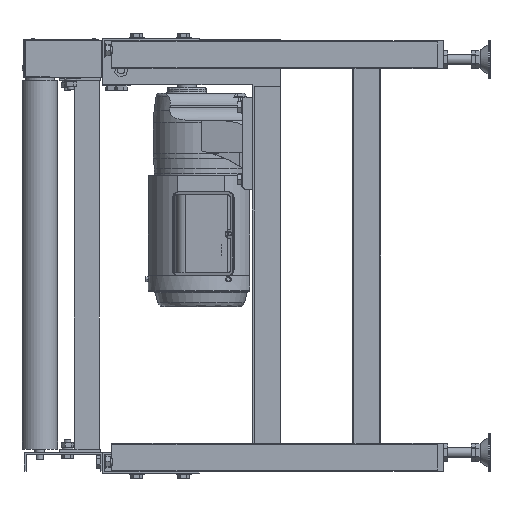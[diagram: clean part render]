
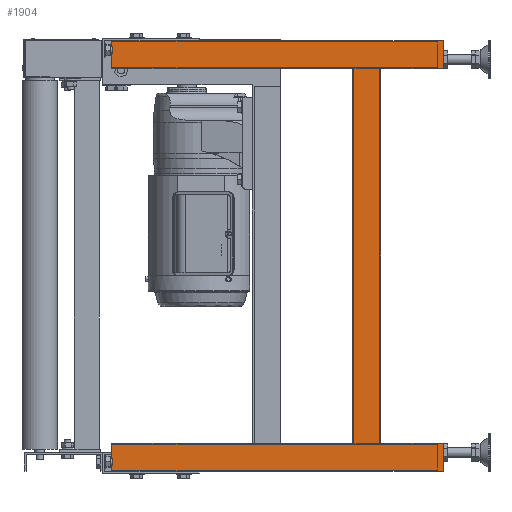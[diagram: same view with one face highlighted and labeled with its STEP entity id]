
A CAD part, left-side view. The second image highlights one B-rep face of the part: STEP entity #1904.
In plain terms, the highlighted planar face has unit normal (-1, 0, 0).
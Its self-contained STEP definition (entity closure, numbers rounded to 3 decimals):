
#1904=ADVANCED_FACE('',(#16114),#16113,.T.);
#16113=PLANE('',#27479);
#16114=FACE_OUTER_BOUND('',#27480,.T.);
#27476=CARTESIAN_POINT('',(62.5,-685.,-340.7));
#27477=DIRECTION('',(-1.,0.,0.));
#27478=DIRECTION('',(0.,0.,1.));
#27479=AXIS2_PLACEMENT_3D('',#27476,#27477,#27478);
#27480=EDGE_LOOP('',(#37053,#37054,#37055,#37056,#37057,#37058,#37059,#37060,#37061,#37062,#37063,#37064,#37065,#37066,#37067,#37068,#37069,#37070));
#37053=ORIENTED_EDGE('',*,*,#42726,.T.);
#37054=ORIENTED_EDGE('',*,*,#42478,.T.);
#37055=ORIENTED_EDGE('',*,*,#42406,.T.);
#37056=ORIENTED_EDGE('',*,*,#42477,.T.);
#37057=ORIENTED_EDGE('',*,*,#42727,.F.);
#37058=ORIENTED_EDGE('',*,*,#42728,.F.);
#37059=ORIENTED_EDGE('',*,*,#42306,.F.);
#37060=ORIENTED_EDGE('',*,*,#42492,.T.);
#37061=ORIENTED_EDGE('',*,*,#42545,.T.);
#37062=ORIENTED_EDGE('',*,*,#42587,.F.);
#37063=ORIENTED_EDGE('',*,*,#42647,.F.);
#37064=ORIENTED_EDGE('',*,*,#42584,.F.);
#37065=ORIENTED_EDGE('',*,*,#42538,.F.);
#37066=ORIENTED_EDGE('',*,*,#42540,.F.);
#37067=ORIENTED_EDGE('',*,*,#42481,.T.);
#37068=ORIENTED_EDGE('',*,*,#42309,.T.);
#37069=ORIENTED_EDGE('',*,*,#42294,.F.);
#37070=ORIENTED_EDGE('',*,*,#42729,.T.);
#42294=EDGE_CURVE('',#64422,#64429,#64430,.T.);
#42306=EDGE_CURVE('',#64505,#64512,#64513,.T.);
#42309=EDGE_CURVE('',#64531,#64429,#64532,.T.);
#42406=EDGE_CURVE('',#65175,#65167,#65176,.T.);
#42477=EDGE_CURVE('',#65167,#65635,#65642,.T.);
#42478=EDGE_CURVE('',#65576,#65175,#65648,.T.);
#42481=EDGE_CURVE('',#65666,#64531,#65667,.T.);
#42492=EDGE_CURVE('',#64505,#65733,#65740,.T.);
#42538=EDGE_CURVE('',#66048,#66034,#66055,.T.);
#42540=EDGE_CURVE('',#65666,#66048,#66067,.T.);
#42545=EDGE_CURVE('',#65733,#66093,#66100,.T.);
#42584=EDGE_CURVE('',#66034,#66362,#66363,.T.);
#42587=EDGE_CURVE('',#66376,#66093,#66383,.T.);
#42647=EDGE_CURVE('',#66362,#66376,#66774,.T.);
#42726=EDGE_CURVE('',#67290,#65576,#67291,.T.);
#42727=EDGE_CURVE('',#67297,#65635,#67298,.T.);
#42728=EDGE_CURVE('',#64512,#67297,#67304,.T.);
#42729=EDGE_CURVE('',#64422,#67290,#67310,.T.);
#64422=VERTEX_POINT('',#86901);
#64429=VERTEX_POINT('',#86905);
#64430=LINE('',#86906,#86907);
#64505=VERTEX_POINT('',#86948);
#64512=VERTEX_POINT('',#86952);
#64513=LINE('',#86953,#86954);
#64531=VERTEX_POINT('',#86962);
#64532=LINE('',#86963,#86964);
#65167=VERTEX_POINT('',#87322);
#65175=VERTEX_POINT('',#87328);
#65176=LINE('',#87329,#87330);
#65576=VERTEX_POINT('',#87558);
#65635=VERTEX_POINT('',#87590);
#65642=LINE('',#87594,#87595);
#65648=LINE('',#87597,#87598);
#65666=VERTEX_POINT('',#87606);
#65667=LINE('',#87607,#87608);
#65733=VERTEX_POINT('',#87643);
#65740=LINE('',#87647,#87648);
#66034=VERTEX_POINT('',#87821);
#66048=VERTEX_POINT('',#87829);
#66055=LINE('',#87833,#87834);
#66067=LINE('',#87839,#87840);
#66093=VERTEX_POINT('',#87854);
#66100=LINE('',#87858,#87859);
#66362=VERTEX_POINT('',#88015);
#66363=LINE('',#88016,#88017);
#66376=VERTEX_POINT('',#88024);
#66383=LINE('',#88029,#88030);
#66774=LINE('',#88251,#88252);
#67290=VERTEX_POINT('',#88535);
#67291=LINE('',#88536,#88537);
#67297=VERTEX_POINT('',#88539);
#67298=LINE('',#88540,#88541);
#67304=LINE('',#88543,#88544);
#67310=LINE('',#88546,#88547);
#86901=CARTESIAN_POINT('',(62.5,-675.,314.3));
#86905=CARTESIAN_POINT('',(62.5,-575.,314.3));
#86906=CARTESIAN_POINT('',(62.5,-675.,314.3));
#86907=VECTOR('',#86908,100.);
#86908=DIRECTION('',(0.,1.,0.));
#86948=CARTESIAN_POINT('',(62.5,-530.,-285.7));
#86952=CARTESIAN_POINT('',(62.5,-530.,314.3));
#86953=CARTESIAN_POINT('',(62.5,-530.,-285.7));
#86954=VECTOR('',#86955,600.);
#86955=DIRECTION('',(0.,0.,1.));
#86962=CARTESIAN_POINT('',(62.5,-575.,-285.7));
#86963=CARTESIAN_POINT('',(62.5,-575.,-285.7));
#86964=VECTOR('',#86965,600.);
#86965=DIRECTION('',(0.,0.,1.));
#87322=CARTESIAN_POINT('',(62.5,-187.768,359.3));
#87328=CARTESIAN_POINT('',(62.5,-199.548,359.3));
#87329=CARTESIAN_POINT('',(62.5,-199.548,359.3));
#87330=VECTOR('',#87331,11.78);
#87331=DIRECTION('',(0.,1.,0.));
#87558=CARTESIAN_POINT('',(62.5,-284.,359.3));
#87590=CARTESIAN_POINT('',(62.5,-144.,359.3));
#87594=CARTESIAN_POINT('',(62.5,-187.768,359.3));
#87595=VECTOR('',#87596,43.768);
#87596=DIRECTION('',(0.,1.,0.));
#87597=CARTESIAN_POINT('',(62.5,-284.,359.3));
#87598=VECTOR('',#87599,84.452);
#87599=DIRECTION('',(0.,1.,0.));
#87606=CARTESIAN_POINT('',(62.5,-675.,-285.7));
#87607=CARTESIAN_POINT('',(62.5,-675.,-285.7));
#87608=VECTOR('',#87609,100.);
#87609=DIRECTION('',(0.,1.,0.));
#87643=CARTESIAN_POINT('',(62.5,-144.,-285.7));
#87647=CARTESIAN_POINT('',(62.5,-530.,-285.7));
#87648=VECTOR('',#87649,386.);
#87649=DIRECTION('',(0.,1.,0.));
#87821=CARTESIAN_POINT('',(62.5,-284.,-330.7));
#87829=CARTESIAN_POINT('',(62.5,-675.,-330.7));
#87833=CARTESIAN_POINT('',(62.5,-675.,-330.7));
#87834=VECTOR('',#87835,391.);
#87835=DIRECTION('',(0.,1.,0.));
#87839=CARTESIAN_POINT('',(62.5,-675.,-285.7));
#87840=VECTOR('',#87841,45.);
#87841=DIRECTION('',(0.,0.,-1.));
#87854=CARTESIAN_POINT('',(62.5,-144.,-330.7));
#87858=CARTESIAN_POINT('',(62.5,-144.,-285.7));
#87859=VECTOR('',#87860,45.);
#87860=DIRECTION('',(0.,0.,-1.));
#88015=CARTESIAN_POINT('',(62.5,-199.548,-330.7));
#88016=CARTESIAN_POINT('',(62.5,-284.,-330.7));
#88017=VECTOR('',#88018,84.452);
#88018=DIRECTION('',(0.,1.,0.));
#88024=CARTESIAN_POINT('',(62.5,-187.768,-330.7));
#88029=CARTESIAN_POINT('',(62.5,-187.768,-330.7));
#88030=VECTOR('',#88031,43.768);
#88031=DIRECTION('',(0.,1.,0.));
#88251=CARTESIAN_POINT('',(62.5,-199.548,-330.7));
#88252=VECTOR('',#88253,11.78);
#88253=DIRECTION('',(0.,1.,0.));
#88535=CARTESIAN_POINT('',(62.5,-675.,359.3));
#88536=CARTESIAN_POINT('',(62.5,-675.,359.3));
#88537=VECTOR('',#88538,391.);
#88538=DIRECTION('',(0.,1.,0.));
#88539=CARTESIAN_POINT('',(62.5,-144.,314.3));
#88540=CARTESIAN_POINT('',(62.5,-144.,314.3));
#88541=VECTOR('',#88542,45.);
#88542=DIRECTION('',(0.,0.,1.));
#88543=CARTESIAN_POINT('',(62.5,-530.,314.3));
#88544=VECTOR('',#88545,386.);
#88545=DIRECTION('',(0.,1.,0.));
#88546=CARTESIAN_POINT('',(62.5,-675.,314.3));
#88547=VECTOR('',#88548,45.);
#88548=DIRECTION('',(0.,0.,1.));
